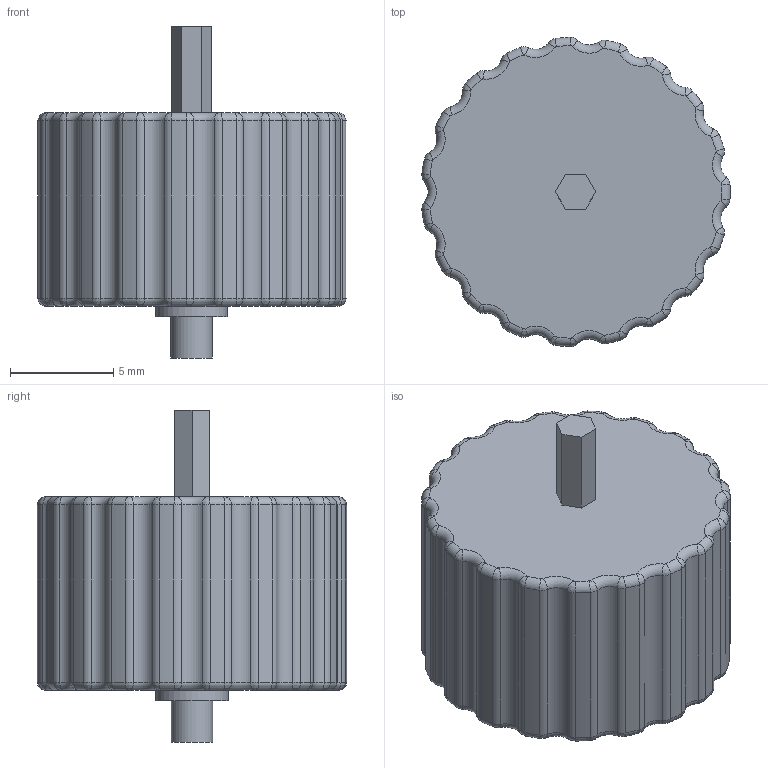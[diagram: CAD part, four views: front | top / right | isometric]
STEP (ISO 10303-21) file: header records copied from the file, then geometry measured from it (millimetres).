
FILE_DESCRIPTION(/* description */ (''),/* implementation_level */ '2;1');
FILE_NAME(/* name */ '',/* time_stamp */ '2025-09-04T16:57:30+08:00',/* author */ ('HELLO'),/* organization */ (''),/* preprocessor_version */ 'ST-DEVELOPER v20',/* originating_system */ 'Autodesk Inventor 2024',/* authorisation */ '');
FILE_SCHEMA (('AUTOMOTIVE_DESIGN { 1 0 10303 214 3 1 1 }'));
Length unit declared in the file: millimetre
Products named in the file (1): 轴
Bounding box: 14.95 x 14.99 x 16.1 mm (x, y, z)
Volume: 1622.5 mm3; surface area: 835.2 mm2
Topology: 1 solids, 1 shells, 241 faces, 556 edges, 320 vertices
Faces by surface type: cylinder 78, bspline 76, torus 76, plane 11
Full cylindrical faces by diameter (mm): 2 x1, 3.5 x1
Entity records: 7281 total; most frequent: CARTESIAN_POINT 1726, DIRECTION 1348, ORIENTED_EDGE 1112, AXIS2_PLACEMENT_3D 626, EDGE_CURVE 556, CIRCLE 460, VERTEX_POINT 320, EDGE_LOOP 244
